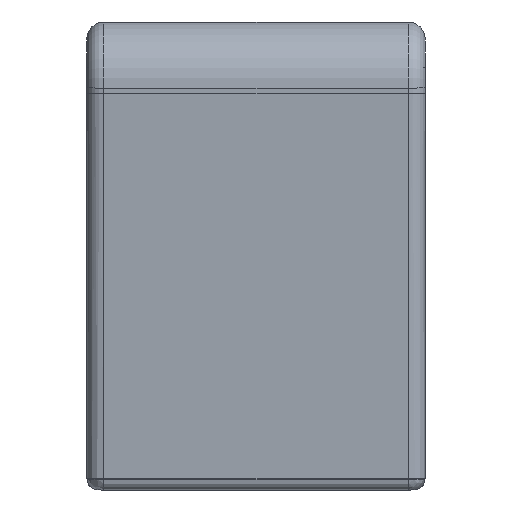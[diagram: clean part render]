
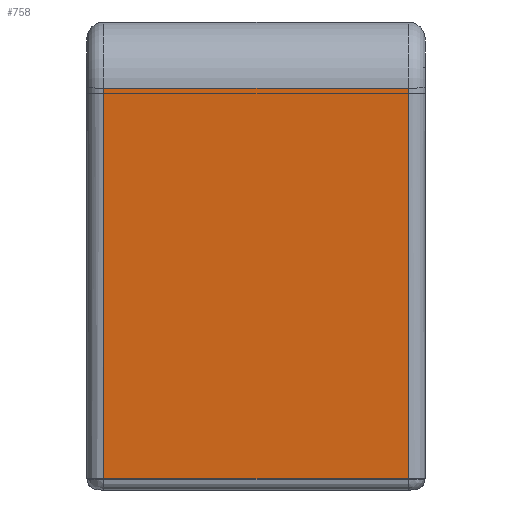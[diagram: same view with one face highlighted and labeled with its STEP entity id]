
A CAD part, left-side view. The second image highlights one B-rep face of the part: STEP entity #758.
In plain terms, the highlighted planar face has unit normal (-0.998, 0, -0.067).
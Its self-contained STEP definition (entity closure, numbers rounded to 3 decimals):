
#4 = EDGE_LOOP ( 'NONE', ( #3153, #3151, #3149, #3147 ) ) ;
#318 = EDGE_CURVE ( 'NONE', #5086, #461, #3905, .T. ) ;
#319 = EDGE_CURVE ( 'NONE', #461, #4965, #3908, .T. ) ;
#320 = EDGE_CURVE ( 'NONE', #4965, #4980, #3912, .T. ) ;
#321 = EDGE_CURVE ( 'NONE', #5086, #4980, #3916, .T. ) ;
#461 = VERTEX_POINT ( 'NONE', #1515 ) ;
#645 = AXIS2_PLACEMENT_3D ( 'NONE', #2483, #2484, #2485 ) ;
#758 = ADVANCED_FACE ( 'NONE', ( #4515 ), #2482, .T. ) ;
#1271 = CARTESIAN_POINT ( 'NONE',  ( -565.063, -13.5, -6.067 ) ) ;
#1286 = CARTESIAN_POINT ( 'NONE',  ( -567.388, -13.5, 28.632 ) ) ;
#1392 = CARTESIAN_POINT ( 'NONE',  ( -567.388, 13.5, 28.632 ) ) ;
#1515 = CARTESIAN_POINT ( 'NONE',  ( -565.063, 13.5, -6.067 ) ) ;
#2482 = PLANE ( 'NONE',  #645 ) ;
#2483 = CARTESIAN_POINT ( 'NONE',  ( -565., 15., -7. ) ) ;
#2484 = DIRECTION ( 'NONE',  ( -0.998, 0., -0.067 ) ) ;
#2485 = DIRECTION ( 'NONE',  ( -0.067, 0., 0.998 ) ) ;
#3147 = ORIENTED_EDGE ( 'NONE', *, *, #321, .F. ) ;
#3149 = ORIENTED_EDGE ( 'NONE', *, *, #320, .T. ) ;
#3151 = ORIENTED_EDGE ( 'NONE', *, *, #319, .T. ) ;
#3153 = ORIENTED_EDGE ( 'NONE', *, *, #318, .T. ) ;
#3905 = LINE ( 'NONE', #4374, #3906 ) ;
#3906 = VECTOR ( 'NONE', #4372, 1000. ) ;
#3908 = LINE ( 'NONE', #4368, #3910 ) ;
#3910 = VECTOR ( 'NONE', #4366, 1000. ) ;
#3912 = LINE ( 'NONE', #4363, #3913 ) ;
#3913 = VECTOR ( 'NONE', #4361, 1000. ) ;
#3916 = LINE ( 'NONE', #4356, #3918 ) ;
#3918 = VECTOR ( 'NONE', #4354, 1000. ) ;
#4354 = DIRECTION ( 'NONE',  ( 0., -1., 0. ) ) ;
#4356 = CARTESIAN_POINT ( 'NONE',  ( -567.388, 15., 28.632 ) ) ;
#4361 = DIRECTION ( 'NONE',  ( -0.067, 0., 0.998 ) ) ;
#4363 = CARTESIAN_POINT ( 'NONE',  ( -567.388, -13.5, 28.632 ) ) ;
#4366 = DIRECTION ( 'NONE',  ( 0., -1., 0. ) ) ;
#4368 = CARTESIAN_POINT ( 'NONE',  ( -565.063, 15., -6.067 ) ) ;
#4372 = DIRECTION ( 'NONE',  ( 0.067, 0., -0.998 ) ) ;
#4374 = CARTESIAN_POINT ( 'NONE',  ( -565., 13.5, -7. ) ) ;
#4515 = FACE_OUTER_BOUND ( 'NONE', #4, .T. ) ;
#4965 = VERTEX_POINT ( 'NONE', #1271 ) ;
#4980 = VERTEX_POINT ( 'NONE', #1286 ) ;
#5086 = VERTEX_POINT ( 'NONE', #1392 ) ;
